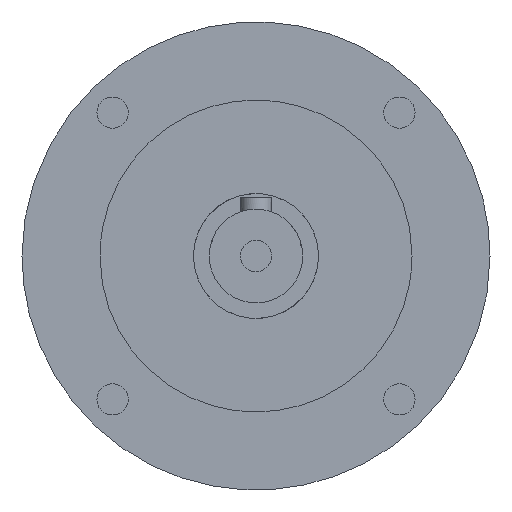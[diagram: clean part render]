
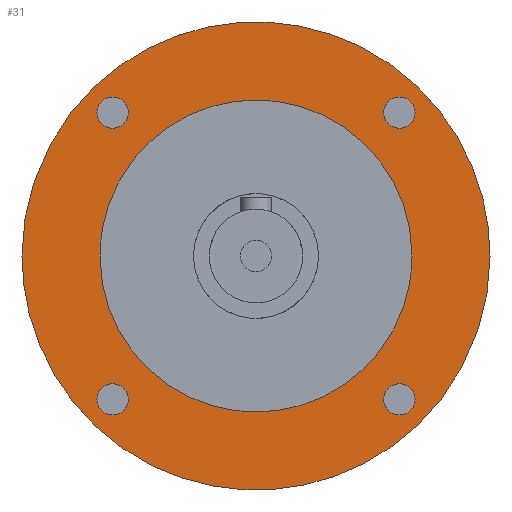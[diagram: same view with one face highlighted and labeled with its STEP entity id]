
A CAD part, front view. The second image highlights one B-rep face of the part: STEP entity #31.
In plain terms, the highlighted planar face has unit normal (0, -1, 0).
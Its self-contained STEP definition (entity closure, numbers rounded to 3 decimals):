
#31=ADVANCED_FACE('',(#97,#76,#77,#78,#79,#80),#779,.T.);
#76=FACE_BOUND('',#159,.T.);
#77=FACE_BOUND('',#160,.T.);
#78=FACE_BOUND('',#161,.T.);
#79=FACE_BOUND('',#162,.T.);
#80=FACE_BOUND('',#163,.T.);
#97=FACE_OUTER_BOUND('',#158,.T.);
#158=EDGE_LOOP('',(#270,#271));
#159=EDGE_LOOP('',(#272,#273));
#160=EDGE_LOOP('',(#274,#275));
#161=EDGE_LOOP('',(#276,#277));
#162=EDGE_LOOP('',(#278,#279));
#163=EDGE_LOOP('',(#280,#281));
#270=ORIENTED_EDGE('',*,*,#515,.F.);
#271=ORIENTED_EDGE('',*,*,#463,.F.);
#272=ORIENTED_EDGE('',*,*,#467,.T.);
#273=ORIENTED_EDGE('',*,*,#519,.T.);
#274=ORIENTED_EDGE('',*,*,#522,.F.);
#275=ORIENTED_EDGE('',*,*,#470,.F.);
#276=ORIENTED_EDGE('',*,*,#473,.T.);
#277=ORIENTED_EDGE('',*,*,#525,.T.);
#278=ORIENTED_EDGE('',*,*,#528,.F.);
#279=ORIENTED_EDGE('',*,*,#476,.F.);
#280=ORIENTED_EDGE('',*,*,#499,.F.);
#281=ORIENTED_EDGE('',*,*,#445,.F.);
#445=EDGE_CURVE('',#669,#700,#583,.T.);
#463=EDGE_CURVE('',#680,#710,#597,.T.);
#467=EDGE_CURVE('',#683,#712,#600,.T.);
#470=EDGE_CURVE('',#685,#714,#603,.T.);
#473=EDGE_CURVE('',#687,#716,#606,.T.);
#476=EDGE_CURVE('',#689,#718,#609,.T.);
#499=EDGE_CURVE('',#700,#669,#625,.T.);
#515=EDGE_CURVE('',#710,#680,#637,.T.);
#519=EDGE_CURVE('',#712,#683,#640,.T.);
#522=EDGE_CURVE('',#714,#685,#643,.T.);
#525=EDGE_CURVE('',#716,#687,#646,.T.);
#528=EDGE_CURVE('',#718,#689,#649,.T.);
#583=(
BOUNDED_CURVE()
B_SPLINE_CURVE(2,(#1875,#1876,#1877,#1878,#1879),.UNSPECIFIED.,.F.,.F.)
B_SPLINE_CURVE_WITH_KNOTS((3,2,3),(0.,31.416,62.832),
 .UNSPECIFIED.)
CURVE()
GEOMETRIC_REPRESENTATION_ITEM()
RATIONAL_B_SPLINE_CURVE((1.,0.707,1.,0.707,1.))
REPRESENTATION_ITEM('')
);
#597=(
BOUNDED_CURVE()
B_SPLINE_CURVE(2,(#1972,#1973,#1974,#1975,#1976),.UNSPECIFIED.,.F.,.F.)
B_SPLINE_CURVE_WITH_KNOTS((3,2,3),(-188.496,-141.372,
-94.248),.UNSPECIFIED.)
CURVE()
GEOMETRIC_REPRESENTATION_ITEM()
RATIONAL_B_SPLINE_CURVE((1.,0.707,1.,0.707,1.))
REPRESENTATION_ITEM('')
);
#600=(
BOUNDED_CURVE()
B_SPLINE_CURVE(2,(#1986,#1987,#1988,#1989,#1990),.UNSPECIFIED.,.F.,.F.)
B_SPLINE_CURVE_WITH_KNOTS((3,2,3),(-12.566,-9.425,
-6.283),.UNSPECIFIED.)
CURVE()
GEOMETRIC_REPRESENTATION_ITEM()
RATIONAL_B_SPLINE_CURVE((1.,0.707,1.,0.707,1.))
REPRESENTATION_ITEM('')
);
#603=(
BOUNDED_CURVE()
B_SPLINE_CURVE(2,(#1998,#1999,#2000,#2001,#2002),.UNSPECIFIED.,.F.,.F.)
B_SPLINE_CURVE_WITH_KNOTS((3,2,3),(-12.566,-9.425,
-6.283),.UNSPECIFIED.)
CURVE()
GEOMETRIC_REPRESENTATION_ITEM()
RATIONAL_B_SPLINE_CURVE((1.,0.707,1.,0.707,1.))
REPRESENTATION_ITEM('')
);
#606=(
BOUNDED_CURVE()
B_SPLINE_CURVE(2,(#2010,#2011,#2012,#2013,#2014),.UNSPECIFIED.,.F.,.F.)
B_SPLINE_CURVE_WITH_KNOTS((3,2,3),(-12.566,-9.425,
-6.283),.UNSPECIFIED.)
CURVE()
GEOMETRIC_REPRESENTATION_ITEM()
RATIONAL_B_SPLINE_CURVE((1.,0.707,1.,0.707,1.))
REPRESENTATION_ITEM('')
);
#609=(
BOUNDED_CURVE()
B_SPLINE_CURVE(2,(#2022,#2023,#2024,#2025,#2026),.UNSPECIFIED.,.F.,.F.)
B_SPLINE_CURVE_WITH_KNOTS((3,2,3),(-12.566,-9.425,
-6.283),.UNSPECIFIED.)
CURVE()
GEOMETRIC_REPRESENTATION_ITEM()
RATIONAL_B_SPLINE_CURVE((1.,0.707,1.,0.707,1.))
REPRESENTATION_ITEM('')
);
#625=(
BOUNDED_CURVE()
B_SPLINE_CURVE(2,(#2132,#2133,#2134,#2135,#2136),.UNSPECIFIED.,.F.,.F.)
B_SPLINE_CURVE_WITH_KNOTS((3,2,3),(62.832,94.248,125.664),
 .UNSPECIFIED.)
CURVE()
GEOMETRIC_REPRESENTATION_ITEM()
RATIONAL_B_SPLINE_CURVE((1.,0.707,1.,0.707,1.))
REPRESENTATION_ITEM('')
);
#637=(
BOUNDED_CURVE()
B_SPLINE_CURVE(2,(#2222,#2223,#2224,#2225,#2226),.UNSPECIFIED.,.F.,.F.)
B_SPLINE_CURVE_WITH_KNOTS((3,2,3),(-94.248,-47.124,
0.),.UNSPECIFIED.)
CURVE()
GEOMETRIC_REPRESENTATION_ITEM()
RATIONAL_B_SPLINE_CURVE((1.,0.707,1.,0.707,1.))
REPRESENTATION_ITEM('')
);
#640=(
BOUNDED_CURVE()
B_SPLINE_CURVE(2,(#2236,#2237,#2238,#2239,#2240),.UNSPECIFIED.,.F.,.F.)
B_SPLINE_CURVE_WITH_KNOTS((3,2,3),(-6.283,-3.142,
0.),.UNSPECIFIED.)
CURVE()
GEOMETRIC_REPRESENTATION_ITEM()
RATIONAL_B_SPLINE_CURVE((1.,0.707,1.,0.707,1.))
REPRESENTATION_ITEM('')
);
#643=(
BOUNDED_CURVE()
B_SPLINE_CURVE(2,(#2248,#2249,#2250,#2251,#2252),.UNSPECIFIED.,.F.,.F.)
B_SPLINE_CURVE_WITH_KNOTS((3,2,3),(-6.283,-3.142,
0.),.UNSPECIFIED.)
CURVE()
GEOMETRIC_REPRESENTATION_ITEM()
RATIONAL_B_SPLINE_CURVE((1.,0.707,1.,0.707,1.))
REPRESENTATION_ITEM('')
);
#646=(
BOUNDED_CURVE()
B_SPLINE_CURVE(2,(#2260,#2261,#2262,#2263,#2264),.UNSPECIFIED.,.F.,.F.)
B_SPLINE_CURVE_WITH_KNOTS((3,2,3),(-6.283,-3.142,
0.),.UNSPECIFIED.)
CURVE()
GEOMETRIC_REPRESENTATION_ITEM()
RATIONAL_B_SPLINE_CURVE((1.,0.707,1.,0.707,1.))
REPRESENTATION_ITEM('')
);
#649=(
BOUNDED_CURVE()
B_SPLINE_CURVE(2,(#2272,#2273,#2274,#2275,#2276),.UNSPECIFIED.,.F.,.F.)
B_SPLINE_CURVE_WITH_KNOTS((3,2,3),(-6.283,-3.142,
0.),.UNSPECIFIED.)
CURVE()
GEOMETRIC_REPRESENTATION_ITEM()
RATIONAL_B_SPLINE_CURVE((1.,0.707,1.,0.707,1.))
REPRESENTATION_ITEM('')
);
#669=VERTEX_POINT('',#1747);
#680=VERTEX_POINT('',#1758);
#683=VERTEX_POINT('',#1761);
#685=VERTEX_POINT('',#1763);
#687=VERTEX_POINT('',#1765);
#689=VERTEX_POINT('',#1767);
#700=VERTEX_POINT('',#1778);
#710=VERTEX_POINT('',#1788);
#712=VERTEX_POINT('',#1790);
#714=VERTEX_POINT('',#1792);
#716=VERTEX_POINT('',#1794);
#718=VERTEX_POINT('',#1796);
#779=PLANE('',#812);
#812=AXIS2_PLACEMENT_3D('',#990,#828,$);
#828=DIRECTION('',(0.,-1.,0.));
#990=CARTESIAN_POINT('',(-30.6,0.,30.6));
#1747=CARTESIAN_POINT('',(20.,0.,0.));
#1758=CARTESIAN_POINT('',(30.,0.,0.));
#1761=CARTESIAN_POINT('',(20.385,0.,18.385));
#1763=CARTESIAN_POINT('',(-20.385,0.,18.385));
#1765=CARTESIAN_POINT('',(-20.385,0.,-18.385));
#1767=CARTESIAN_POINT('',(20.385,0.,-18.385));
#1778=CARTESIAN_POINT('',(-20.,0.,0.));
#1788=CARTESIAN_POINT('',(-30.,0.,0.));
#1790=CARTESIAN_POINT('',(16.385,0.,18.385));
#1792=CARTESIAN_POINT('',(-16.385,0.,18.385));
#1794=CARTESIAN_POINT('',(-16.385,0.,-18.385));
#1796=CARTESIAN_POINT('',(16.385,0.,-18.385));
#1875=CARTESIAN_POINT('',(20.,0.,0.));
#1876=CARTESIAN_POINT('',(20.,0.,20.));
#1877=CARTESIAN_POINT('',(0.,0.,20.));
#1878=CARTESIAN_POINT('',(-20.,0.,20.));
#1879=CARTESIAN_POINT('',(-20.,0.,0.));
#1972=CARTESIAN_POINT('',(30.,0.,0.));
#1973=CARTESIAN_POINT('',(30.,0.,-30.));
#1974=CARTESIAN_POINT('',(0.,0.,-30.));
#1975=CARTESIAN_POINT('',(-30.,0.,-30.));
#1976=CARTESIAN_POINT('',(-30.,0.,0.));
#1986=CARTESIAN_POINT('',(20.385,0.,18.385));
#1987=CARTESIAN_POINT('',(20.385,0.,16.385));
#1988=CARTESIAN_POINT('',(18.385,0.,16.385));
#1989=CARTESIAN_POINT('',(16.385,0.,16.385));
#1990=CARTESIAN_POINT('',(16.385,0.,18.385));
#1998=CARTESIAN_POINT('',(-20.385,0.,18.385));
#1999=CARTESIAN_POINT('',(-20.385,0.,16.385));
#2000=CARTESIAN_POINT('',(-18.385,0.,16.385));
#2001=CARTESIAN_POINT('',(-16.385,0.,16.385));
#2002=CARTESIAN_POINT('',(-16.385,0.,18.385));
#2010=CARTESIAN_POINT('',(-20.385,0.,-18.385));
#2011=CARTESIAN_POINT('',(-20.385,0.,-16.385));
#2012=CARTESIAN_POINT('',(-18.385,0.,-16.385));
#2013=CARTESIAN_POINT('',(-16.385,0.,-16.385));
#2014=CARTESIAN_POINT('',(-16.385,0.,-18.385));
#2022=CARTESIAN_POINT('',(20.385,0.,-18.385));
#2023=CARTESIAN_POINT('',(20.385,0.,-16.385));
#2024=CARTESIAN_POINT('',(18.385,0.,-16.385));
#2025=CARTESIAN_POINT('',(16.385,0.,-16.385));
#2026=CARTESIAN_POINT('',(16.385,0.,-18.385));
#2132=CARTESIAN_POINT('',(-20.,0.,0.));
#2133=CARTESIAN_POINT('',(-20.,0.,-20.));
#2134=CARTESIAN_POINT('',(0.,0.,-20.));
#2135=CARTESIAN_POINT('',(20.,0.,-20.));
#2136=CARTESIAN_POINT('',(20.,0.,0.));
#2222=CARTESIAN_POINT('',(-30.,0.,0.));
#2223=CARTESIAN_POINT('',(-30.,0.,30.));
#2224=CARTESIAN_POINT('',(0.,0.,30.));
#2225=CARTESIAN_POINT('',(30.,0.,30.));
#2226=CARTESIAN_POINT('',(30.,0.,0.));
#2236=CARTESIAN_POINT('',(16.385,0.,18.385));
#2237=CARTESIAN_POINT('',(16.385,0.,20.385));
#2238=CARTESIAN_POINT('',(18.385,0.,20.385));
#2239=CARTESIAN_POINT('',(20.385,0.,20.385));
#2240=CARTESIAN_POINT('',(20.385,0.,18.385));
#2248=CARTESIAN_POINT('',(-16.385,0.,18.385));
#2249=CARTESIAN_POINT('',(-16.385,0.,20.385));
#2250=CARTESIAN_POINT('',(-18.385,0.,20.385));
#2251=CARTESIAN_POINT('',(-20.385,0.,20.385));
#2252=CARTESIAN_POINT('',(-20.385,0.,18.385));
#2260=CARTESIAN_POINT('',(-16.385,0.,-18.385));
#2261=CARTESIAN_POINT('',(-16.385,0.,-20.385));
#2262=CARTESIAN_POINT('',(-18.385,0.,-20.385));
#2263=CARTESIAN_POINT('',(-20.385,0.,-20.385));
#2264=CARTESIAN_POINT('',(-20.385,0.,-18.385));
#2272=CARTESIAN_POINT('',(16.385,0.,-18.385));
#2273=CARTESIAN_POINT('',(16.385,0.,-20.385));
#2274=CARTESIAN_POINT('',(18.385,0.,-20.385));
#2275=CARTESIAN_POINT('',(20.385,0.,-20.385));
#2276=CARTESIAN_POINT('',(20.385,0.,-18.385));
